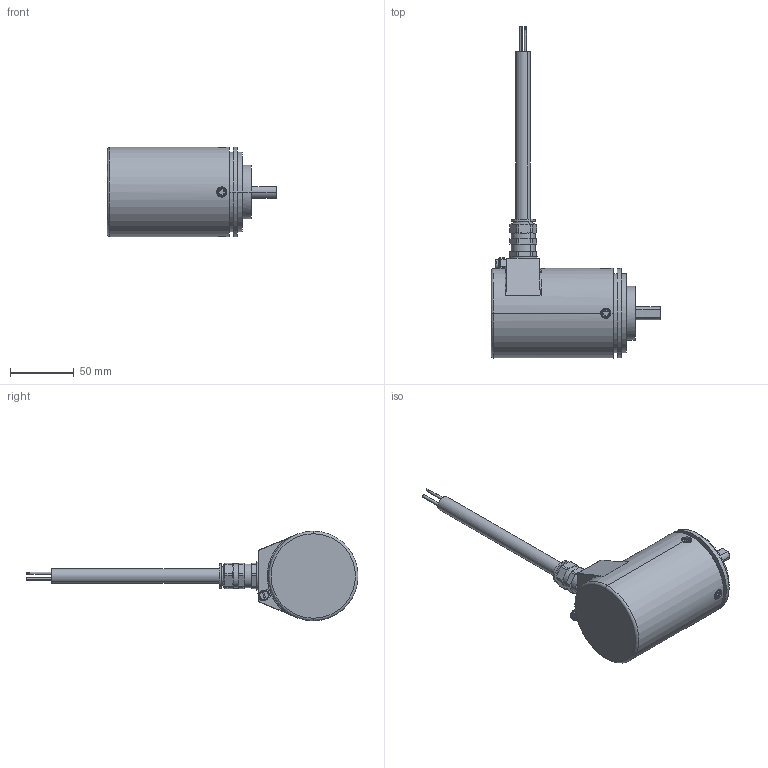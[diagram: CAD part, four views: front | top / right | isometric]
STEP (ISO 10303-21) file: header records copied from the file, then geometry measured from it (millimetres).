
FILE_DESCRIPTION (( 'STEP AP203' ), '1' );
FILE_NAME ('8.7014FSX.12X2.XXXX.XXXX.STEP', '2013-08-05T09:53:22', ( 'Admin' ), ( 'Fritz Kübler GmbH' ), 'SwSTEP 2.0', 'SolidWorks 2012', '' );
FILE_SCHEMA (( 'CONFIG_CONTROL_DESIGN' ));
Length unit declared in the file: millimetre
Products named in the file (1): 8.7014FSX.12X2.XXXX.XXXX
Bounding box: 132.7 x 259.6 x 70 mm (x, y, z)
Volume: 292215.1 mm3; surface area: 99401.4 mm2
Topology: 21 solids, 22 shells, 1088 faces, 2614 edges, 1616 vertices
Faces by surface type: cylinder 424, plane 375, cone 180, torus 85, sphere 20, bspline 4
Entity records: 32667 total; most frequent: CARTESIAN_POINT 7045, DIRECTION 5672, ORIENTED_EDGE 5052, EDGE_CURVE 2526, AXIS2_PLACEMENT_3D 2207, VERTEX_POINT 1586, EDGE_LOOP 1262, LINE 1258
